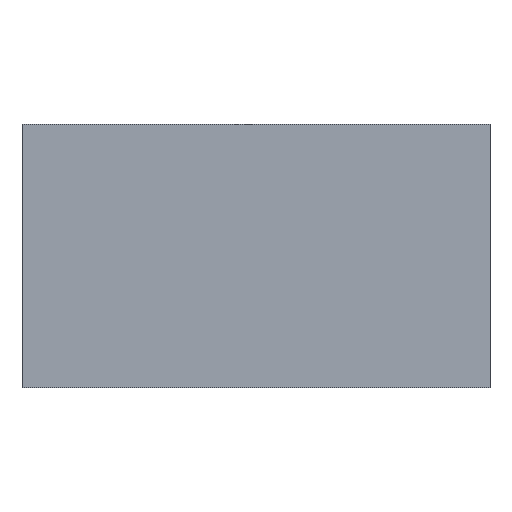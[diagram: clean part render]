
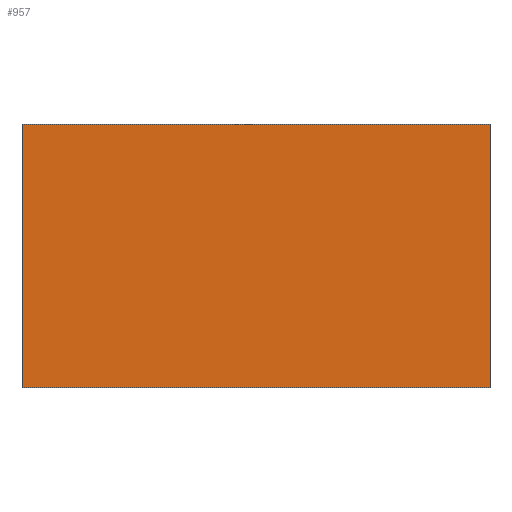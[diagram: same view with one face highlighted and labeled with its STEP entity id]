
A CAD part, top view. The second image highlights one B-rep face of the part: STEP entity #957.
In plain terms, the highlighted planar face has unit normal (0, 0, 1).
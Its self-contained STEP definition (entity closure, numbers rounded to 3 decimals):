
#43 = PLANE('',#44);
#44 = AXIS2_PLACEMENT_3D('',#45,#46,#47);
#45 = CARTESIAN_POINT('',(-32.,-21.,-14.));
#46 = DIRECTION('',(1.,0.,0.));
#47 = DIRECTION('',(0.,0.,1.));
#69 = PLANE('',#70);
#70 = AXIS2_PLACEMENT_3D('',#71,#72,#73);
#71 = CARTESIAN_POINT('',(-32.,-21.,-14.));
#72 = DIRECTION('',(0.,1.,0.));
#73 = DIRECTION('',(0.,0.,1.));
#95 = PLANE('',#96);
#96 = AXIS2_PLACEMENT_3D('',#97,#98,#99);
#97 = CARTESIAN_POINT('',(32.,-21.,-14.));
#98 = DIRECTION('',(1.,0.,0.));
#99 = DIRECTION('',(0.,0.,1.));
#119 = PLANE('',#120);
#120 = AXIS2_PLACEMENT_3D('',#121,#122,#123);
#121 = CARTESIAN_POINT('',(-32.,15.,-14.));
#122 = DIRECTION('',(0.,1.,0.));
#123 = DIRECTION('',(0.,0.,1.));
#364 = VERTEX_POINT('',#365);
#365 = CARTESIAN_POINT('',(-32.,-21.,-10.4));
#388 = VERTEX_POINT('',#389);
#389 = CARTESIAN_POINT('',(-32.,15.,-10.4));
#410 = EDGE_CURVE('',#364,#388,#411,.T.);
#411 = SURFACE_CURVE('',#412,(#416,#422),.PCURVE_S1.);
#412 = LINE('',#413,#414);
#413 = CARTESIAN_POINT('',(-32.,-42.7,-10.4));
#414 = VECTOR('',#415,1.);
#415 = DIRECTION('',(0.,1.,0.));
#416 = PCURVE('',#43,#417);
#417 = DEFINITIONAL_REPRESENTATION('',(#418),#421);
#418 = B_SPLINE_CURVE_WITH_KNOTS('',1,(#419,#420),.UNSPECIFIED.,.F.,.F.,
  (2,2),(21.7,57.7),.PIECEWISE_BEZIER_KNOTS.);
#419 = CARTESIAN_POINT('',(3.6,0.));
#420 = CARTESIAN_POINT('',(3.6,-36.));
#421 = ( GEOMETRIC_REPRESENTATION_CONTEXT(2) 
PARAMETRIC_REPRESENTATION_CONTEXT() REPRESENTATION_CONTEXT('2D SPACE',''
  ) );
#422 = PCURVE('',#423,#428);
#423 = PLANE('',#424);
#424 = AXIS2_PLACEMENT_3D('',#425,#426,#427);
#425 = CARTESIAN_POINT('',(-40.4,-64.4,-10.4));
#426 = DIRECTION('',(0.,0.,1.));
#427 = DIRECTION('',(1.,0.,-0.));
#428 = DEFINITIONAL_REPRESENTATION('',(#429),#432);
#429 = B_SPLINE_CURVE_WITH_KNOTS('',1,(#430,#431),.UNSPECIFIED.,.F.,.F.,
  (2,2),(21.7,57.7),.PIECEWISE_BEZIER_KNOTS.);
#430 = CARTESIAN_POINT('',(8.4,43.4));
#431 = CARTESIAN_POINT('',(8.4,79.4));
#432 = ( GEOMETRIC_REPRESENTATION_CONTEXT(2) 
PARAMETRIC_REPRESENTATION_CONTEXT() REPRESENTATION_CONTEXT('2D SPACE',''
  ) );
#438 = VERTEX_POINT('',#439);
#439 = CARTESIAN_POINT('',(32.,15.,-10.4));
#462 = EDGE_CURVE('',#438,#388,#463,.T.);
#463 = SURFACE_CURVE('',#464,(#468,#474),.PCURVE_S1.);
#464 = LINE('',#465,#466);
#465 = CARTESIAN_POINT('',(-36.2,15.,-10.4));
#466 = VECTOR('',#467,1.);
#467 = DIRECTION('',(-1.,0.,0.));
#468 = PCURVE('',#119,#469);
#469 = DEFINITIONAL_REPRESENTATION('',(#470),#473);
#470 = B_SPLINE_CURVE_WITH_KNOTS('',1,(#471,#472),.UNSPECIFIED.,.F.,.F.,
  (2,2),(-68.2,-4.2),.PIECEWISE_BEZIER_KNOTS.);
#471 = CARTESIAN_POINT('',(3.6,64.));
#472 = CARTESIAN_POINT('',(3.6,0.));
#473 = ( GEOMETRIC_REPRESENTATION_CONTEXT(2) 
PARAMETRIC_REPRESENTATION_CONTEXT() REPRESENTATION_CONTEXT('2D SPACE',''
  ) );
#474 = PCURVE('',#423,#475);
#475 = DEFINITIONAL_REPRESENTATION('',(#476),#479);
#476 = B_SPLINE_CURVE_WITH_KNOTS('',1,(#477,#478),.UNSPECIFIED.,.F.,.F.,
  (2,2),(-68.2,-4.2),.PIECEWISE_BEZIER_KNOTS.);
#477 = CARTESIAN_POINT('',(72.4,79.4));
#478 = CARTESIAN_POINT('',(8.4,79.4));
#479 = ( GEOMETRIC_REPRESENTATION_CONTEXT(2) 
PARAMETRIC_REPRESENTATION_CONTEXT() REPRESENTATION_CONTEXT('2D SPACE',''
  ) );
#485 = VERTEX_POINT('',#486);
#486 = CARTESIAN_POINT('',(32.,-21.,-10.4));
#509 = EDGE_CURVE('',#485,#438,#510,.T.);
#510 = SURFACE_CURVE('',#511,(#515,#521),.PCURVE_S1.);
#511 = LINE('',#512,#513);
#512 = CARTESIAN_POINT('',(32.,-42.7,-10.4));
#513 = VECTOR('',#514,1.);
#514 = DIRECTION('',(0.,1.,0.));
#515 = PCURVE('',#95,#516);
#516 = DEFINITIONAL_REPRESENTATION('',(#517),#520);
#517 = B_SPLINE_CURVE_WITH_KNOTS('',1,(#518,#519),.UNSPECIFIED.,.F.,.F.,
  (2,2),(21.7,57.7),.PIECEWISE_BEZIER_KNOTS.);
#518 = CARTESIAN_POINT('',(3.6,0.));
#519 = CARTESIAN_POINT('',(3.6,-36.));
#520 = ( GEOMETRIC_REPRESENTATION_CONTEXT(2) 
PARAMETRIC_REPRESENTATION_CONTEXT() REPRESENTATION_CONTEXT('2D SPACE',''
  ) );
#521 = PCURVE('',#423,#522);
#522 = DEFINITIONAL_REPRESENTATION('',(#523),#526);
#523 = B_SPLINE_CURVE_WITH_KNOTS('',1,(#524,#525),.UNSPECIFIED.,.F.,.F.,
  (2,2),(21.7,57.7),.PIECEWISE_BEZIER_KNOTS.);
#524 = CARTESIAN_POINT('',(72.4,43.4));
#525 = CARTESIAN_POINT('',(72.4,79.4));
#526 = ( GEOMETRIC_REPRESENTATION_CONTEXT(2) 
PARAMETRIC_REPRESENTATION_CONTEXT() REPRESENTATION_CONTEXT('2D SPACE',''
  ) );
#534 = EDGE_CURVE('',#485,#364,#535,.T.);
#535 = SURFACE_CURVE('',#536,(#540,#546),.PCURVE_S1.);
#536 = LINE('',#537,#538);
#537 = CARTESIAN_POINT('',(-36.2,-21.,-10.4));
#538 = VECTOR('',#539,1.);
#539 = DIRECTION('',(-1.,0.,0.));
#540 = PCURVE('',#69,#541);
#541 = DEFINITIONAL_REPRESENTATION('',(#542),#545);
#542 = B_SPLINE_CURVE_WITH_KNOTS('',1,(#543,#544),.UNSPECIFIED.,.F.,.F.,
  (2,2),(-68.2,-4.2),.PIECEWISE_BEZIER_KNOTS.);
#543 = CARTESIAN_POINT('',(3.6,64.));
#544 = CARTESIAN_POINT('',(3.6,0.));
#545 = ( GEOMETRIC_REPRESENTATION_CONTEXT(2) 
PARAMETRIC_REPRESENTATION_CONTEXT() REPRESENTATION_CONTEXT('2D SPACE',''
  ) );
#546 = PCURVE('',#423,#547);
#547 = DEFINITIONAL_REPRESENTATION('',(#548),#551);
#548 = B_SPLINE_CURVE_WITH_KNOTS('',1,(#549,#550),.UNSPECIFIED.,.F.,.F.,
  (2,2),(-68.2,-4.2),.PIECEWISE_BEZIER_KNOTS.);
#549 = CARTESIAN_POINT('',(72.4,43.4));
#550 = CARTESIAN_POINT('',(8.4,43.4));
#551 = ( GEOMETRIC_REPRESENTATION_CONTEXT(2) 
PARAMETRIC_REPRESENTATION_CONTEXT() REPRESENTATION_CONTEXT('2D SPACE',''
  ) );
#957 = ADVANCED_FACE('',(#958),#423,.T.);
#958 = FACE_BOUND('',#959,.T.);
#959 = EDGE_LOOP('',(#960,#961,#962,#963));
#960 = ORIENTED_EDGE('',*,*,#410,.F.);
#961 = ORIENTED_EDGE('',*,*,#534,.F.);
#962 = ORIENTED_EDGE('',*,*,#509,.T.);
#963 = ORIENTED_EDGE('',*,*,#462,.T.);
